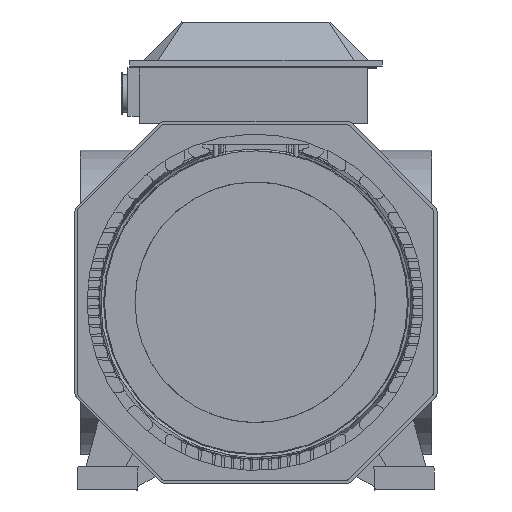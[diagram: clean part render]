
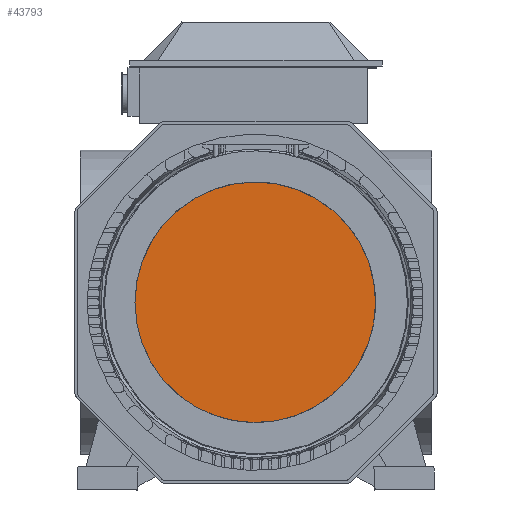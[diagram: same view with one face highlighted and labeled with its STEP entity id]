
A CAD part, front view. The second image highlights one B-rep face of the part: STEP entity #43793.
In plain terms, the highlighted planar face has unit normal (0, -1, 0).
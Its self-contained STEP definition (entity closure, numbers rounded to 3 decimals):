
#780=PLANE('',#46336);
#1841=FACE_OUTER_BOUND('',#4245,.T.);
#4245=EDGE_LOOP('',(#28083,#28084));
#6809=CIRCLE('',#46337,128.216);
#6810=CIRCLE('',#46338,128.216);
#16773=VERTEX_POINT('',#66617);
#16774=VERTEX_POINT('',#66618);
#21201=EDGE_CURVE('',#16773,#16774,#6809,.T.);
#21202=EDGE_CURVE('',#16774,#16773,#6810,.T.);
#28083=ORIENTED_EDGE('',*,*,#21201,.F.);
#28084=ORIENTED_EDGE('',*,*,#21202,.F.);
#43793=ADVANCED_FACE('',(#1841),#780,.F.);
#46336=AXIS2_PLACEMENT_3D('',#66616,#51772,#51773);
#46337=AXIS2_PLACEMENT_3D('',#66619,#51774,#51775);
#46338=AXIS2_PLACEMENT_3D('',#66620,#51776,#51777);
#51772=DIRECTION('center_axis',(0.,1.,0.));
#51773=DIRECTION('ref_axis',(0.,0.,
-1.));
#51774=DIRECTION('center_axis',(0.,1.,0.));
#51775=DIRECTION('ref_axis',(0.01,0.,1.));
#51776=DIRECTION('center_axis',(0.,1.,0.));
#51777=DIRECTION('ref_axis',(0.01,0.,1.));
#66616=CARTESIAN_POINT('Origin',(0.,-1067.,250.));
#66617=CARTESIAN_POINT('',(-2.063,-1067.,-128.084));
#66618=CARTESIAN_POINT('',(-128.98,-1067.,0.126));
#66619=CARTESIAN_POINT('Origin',(-0.764,-1067.,0.126));
#66620=CARTESIAN_POINT('Origin',(-0.764,-1067.,0.126));
